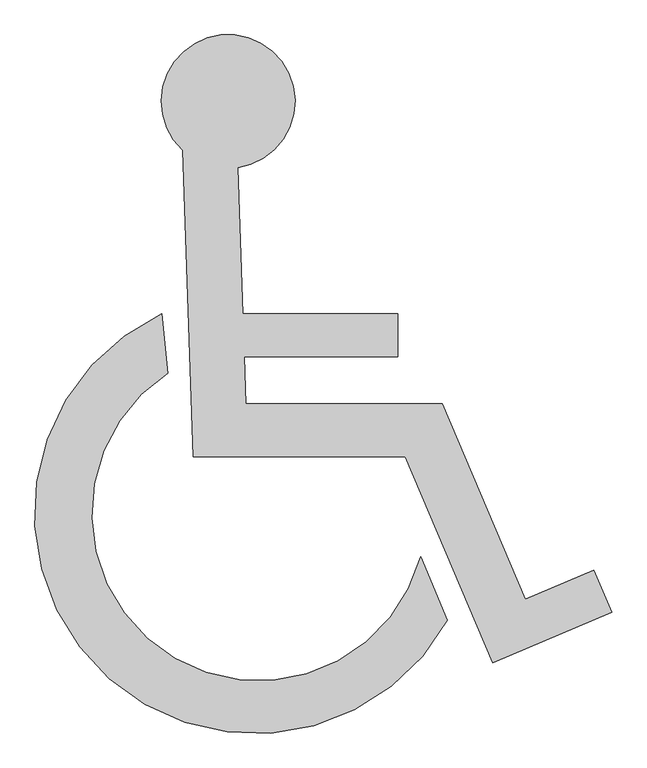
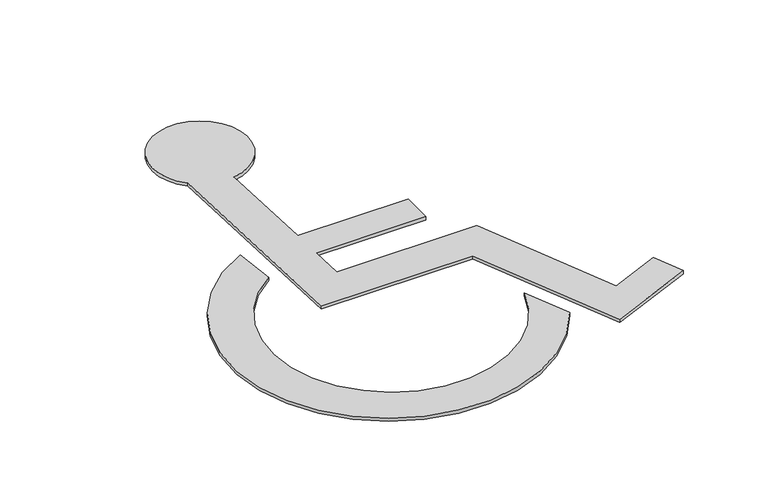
"""IFC4 building model written with IfcOpenShell, lengths in millimetres: geographic element geometry, Symbole Handicapé : Symbole Handicapé."""

from ifc_helpers import new_model, si_unit, point, frame_2d, origin, origin_with_axes, place, context, project, spatial, polyline, circle_curve, trimmed, segment, composite_curve, outline, extrude, source, transform, mapped, element, save


def geographic_element_3520c6fb(model_context):
    return source(origin(), model_context, "Body", "SweptSolid", [
        extrude(outline(composite_curve([segment(polyline([(-110.2325035, 151.7121598), (224.9399103, 151.7121598), (224.9399103, 58.6087115), (-106.9812594, 58.6087115), (-103.4172399, -43.4514553), (321.6073782, -43.4514553), (501.0742275, -466.2488569), (649.6246659, -403.1929369), (688.428309, -494.6085913), (431.321781, -603.7438375), (242.1540209, -158.0925222), (-217.156324, -158.0925222), (-240.3344035, 505.6408339)]), True, "CONTINUOUS"), segment(trimmed(circle_curve(frame_2d((-141.541267, 611.2852522)), 144.6403365), [point((-240.3344035, 505.6408339))], [point((-121.2799993, 468.0710492))], False, "CARTESIAN"), True, "CONTINUOUS"), segment(polyline([(-121.2799993, 468.0710492), (-110.2325035, 151.7121598)]), True, "CONTINUOUS")], self_intersect=False)), origin_with_axes(), (0.0, 0.0, 1.0), 10.0),
        extrude(outline(composite_curve([segment(polyline([(274.8175625, -374.1414518), (333.0230271, -511.2649334)]), True, "CONTINUOUS"), segment(trimmed(circle_curve(frame_2d((-83.9220191, -280.3266683)), 476.6294723), [point((333.0230271, -511.2649334))], [point((-285.213114, 151.7121598))], False, "CARTESIAN"), True, "CONTINUOUS"), segment(polyline([(-285.213114, 151.7121598), (-272.5242799, 23.5256741)]), True, "CONTINUOUS"), segment(trimmed(circle_curve(frame_2d((-74.9877299, -280.0978608)), 362.2263651), [point((-272.5242799, 23.5256741))], [point((274.8175625, -374.1414518))], True, "CARTESIAN"), True, "CONTINUOUS")], self_intersect=False)), origin_with_axes(), (0.0, 0.0, 1.0), 10.0),
    ])


if __name__ == "__main__":
    model = new_model("IFC4")
    model_context = context("Model", 3, world=origin())
    ifc_project = project(units=[si_unit("LENGTHUNIT", "METRE", prefix="MILLI")], contexts=[model_context])
    site = spatial("IfcSite", under=ifc_project)
    building = spatial("IfcBuilding", under=site)
    placement = place(None, origin())
    geographic_element_shape = geographic_element_3520c6fb(model_context)
    element("IfcGeographicElement", 1, ObjectType="Symbole Handicapé : Symbole Handicapé", at=placement, inside=building, context=model_context, shape_type="MappedRepresentation", body=[
        mapped(geographic_element_shape, transform((0.0, 0.0, 0.0), x_axis=(1.0, 0.0, 0.0), y_axis=(0.0, 1.0, 0.0), z_axis=(0.0, 0.0, 1.0))),
    ])
    save(model, "model.ifc")
